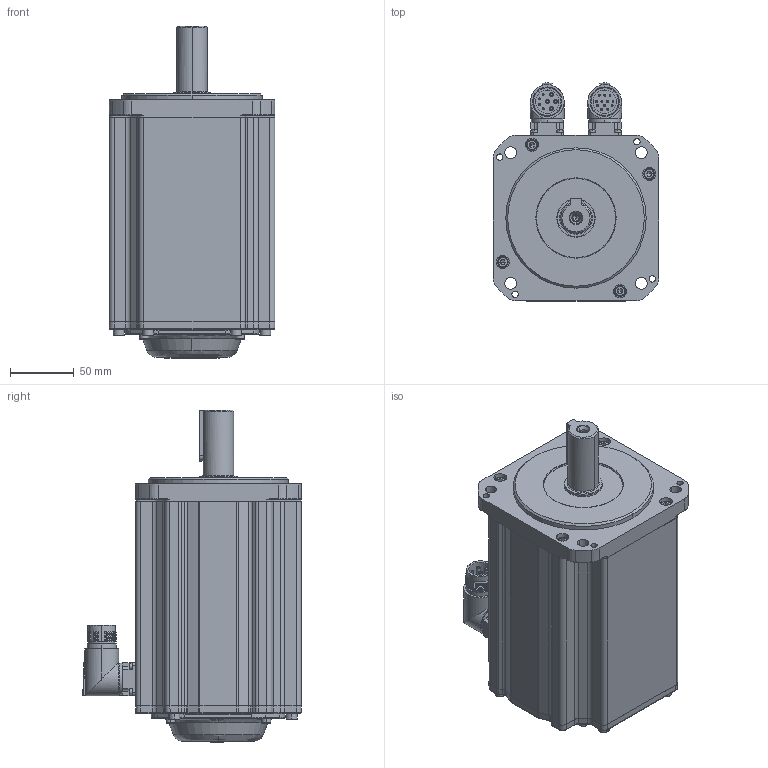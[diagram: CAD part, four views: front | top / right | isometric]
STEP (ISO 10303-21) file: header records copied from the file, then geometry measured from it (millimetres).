
FILE_DESCRIPTION (( 'STEP AP203' ), '1' );
FILE_NAME ('MC20-130-3M20-N202-1¡õPK-NNNN.STEP', '2025-05-04T14:07:47', ( '' ), ( '' ), 'SwSTEP 2.0', 'SolidWorks 2014', '' );
FILE_SCHEMA (( 'CONFIG_CONTROL_DESIGN' ));
Length unit declared in the file: millimetre
Products named in the file (1): MC20-130-3M20-N202-1¡õPK-NNNN
Bounding box: 130 x 171.35 x 260.3 mm (x, y, z)
Volume: 2957613.5 mm3; surface area: 289849.3 mm2
Topology: 28 solids, 28 shells, 2024 faces, 4803 edges, 2863 vertices
Faces by surface type: plane 735, cylinder 568, cone 357, bspline 204, torus 148, sphere 12
Entity records: 62226 total; most frequent: CARTESIAN_POINT 16865, DIRECTION 9530, ORIENTED_EDGE 9382, EDGE_CURVE 4691, AXIS2_PLACEMENT_3D 3694, VERTEX_POINT 2863, EDGE_LOOP 2270, VECTOR 2142
